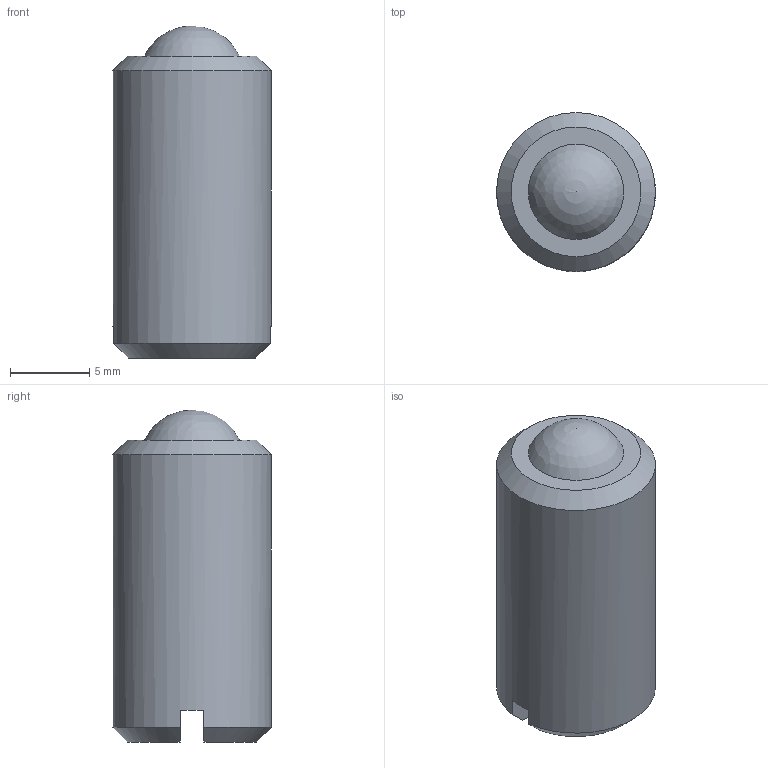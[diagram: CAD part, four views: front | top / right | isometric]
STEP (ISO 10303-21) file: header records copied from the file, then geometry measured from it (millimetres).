
FILE_DESCRIPTION( ( 'STEP AP203' ), '1' );
FILE_NAME( 'C:/Temp/Ganter_Step_05_03_2020/data/3_1/gn615_2/Plastic-Spring plunger GN 615.2-M10-NI (deactivated).stp', '2020-03-12T08:38:39', ( 'License CC BY-ND 4.0' ), ( 'CADENAS' ), ' ', 'PARTsolutions', ' ' );
FILE_SCHEMA( ( 'CONFIG_CONTROL_DESIGN' ) );
Length unit declared in the file: millimetre
Products named in the file (1): _Plastic-Spring plunger GN 615.2-M10-NI (deactivated)
Bounding box: 10 x 10 x 20.9 mm (x, y, z)
Volume: 1469.1 mm3; surface area: 762.7 mm2
Topology: 1 solids, 1 shells, 11 faces, 27 edges, 18 vertices
Faces by surface type: plane 6, cone 3, sphere 1, cylinder 1
Full cylindrical faces by diameter (mm): 10 x1
Entity records: 340 total; most frequent: CARTESIAN_POINT 61, DIRECTION 50, ORIENTED_EDGE 42, AXIS2_PLACEMENT_3D 21, EDGE_CURVE 21, VERTEX_POINT 16, EDGE_LOOP 14, FACE_OUTER_BOUND 12
